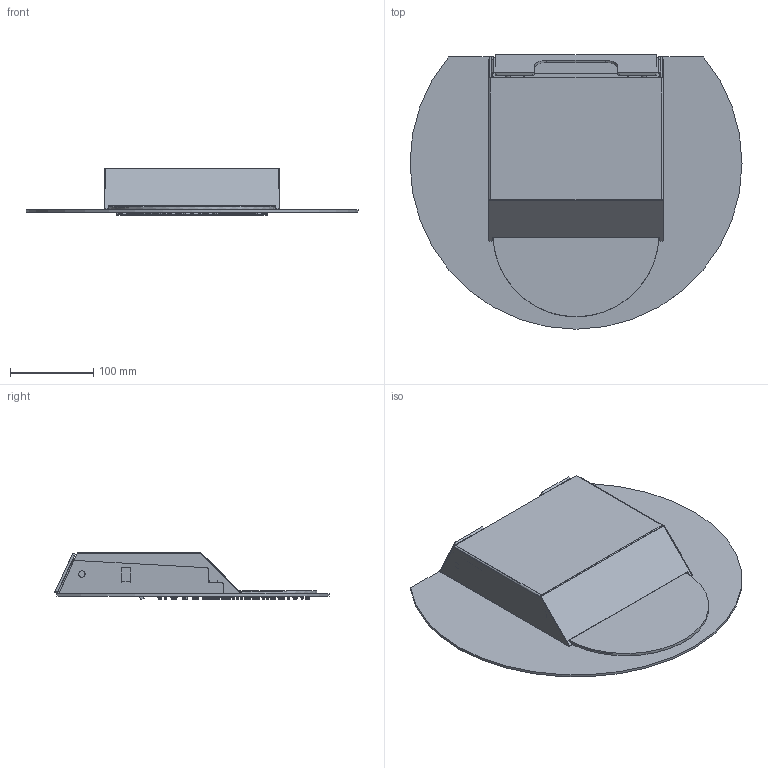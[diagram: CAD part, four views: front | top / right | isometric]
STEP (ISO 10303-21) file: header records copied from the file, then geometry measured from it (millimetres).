
FILE_DESCRIPTION((''),'2;1');
FILE_NAME('8960721_SW0001','2020-06-29T13:46:49',('carloff'),(''),'CREO PARAMETRIC BY PTC INC, 2018100','CREO PARAMETRIC BY PTC INC, 2018100','');
FILE_SCHEMA(('CONFIG_CONTROL_DESIGN'));
Length unit declared in the file: millimetre
Products named in the file (1): 8960721_SW0001
Bounding box: 400 x 330.7 x 57.79 mm (x, y, z)
Volume: 627402.1 mm3; surface area: 454301.1 mm2
Topology: 1 solids, 106 shells, 1774 faces, 3822 edges, 2378 vertices
Faces by surface type: plane 665, torus 634, cylinder 411, cone 62, bspline 2
Entity records: 50339 total; most frequent: CARTESIAN_POINT 9968, DIRECTION 9595, ORIENTED_EDGE 7644, AXIS2_PLACEMENT_3D 4157, EDGE_CURVE 3822, CIRCLE 2385, VERTEX_POINT 2378, EDGE_LOOP 1934
